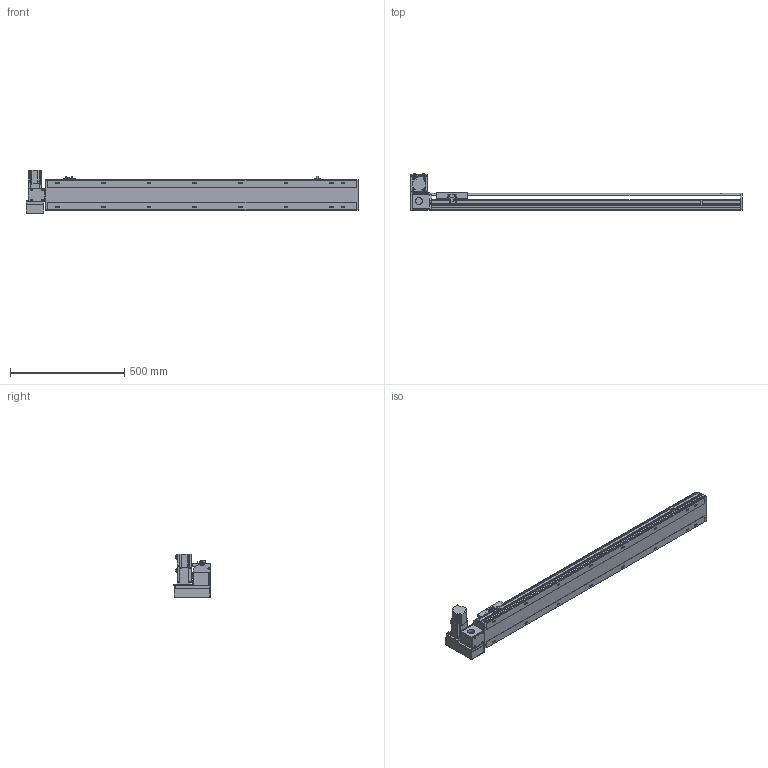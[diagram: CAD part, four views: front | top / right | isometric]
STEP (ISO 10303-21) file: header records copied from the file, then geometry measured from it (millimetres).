
FILE_DESCRIPTION( ( 'STEP AP214' ), '1' );
FILE_NAME( 'x:/temp/worker_2/temp/exporttempdir_6476_474_uyLlD/format_0/PBS140-P40-S1100-LU-T40-C1-N(0).stp', '2022-06-07T05:17:00', ( 'License CC BY-ND 4.0' ), ( 'CADENAS' ), ' ', 'PARTsolutions', ' ' );
FILE_SCHEMA( ( 'AUTOMOTIVE_DESIGN { 1 0 10303 214 1 1 1 1 }' ) );
Length unit declared in the file: millimetre
Products named in the file (7): PBS140-P40-S1100-LU-T40-C1-N(0); _PBS140-S1100()_body; _PBS140T-LU_motors; _T40-p1; _PBS140_sliser; _PBS140_plant; _PBS140_sensor
Assembly tree (8 placements, depth 2):
  PBS140-P40-S1100-LU-T40-C1-N(0)
    _PBS140-S1100()_body
    _PBS140T-LU_motors
    _T40-p1
    _PBS140_sliser
    _PBS140_plant
    _PBS140_sensor  x3
Bounding box: 1454 x 162.5 x 189.7 mm (x, y, z)
Volume: 6930518.5 mm3; surface area: 1209695 mm2
Topology: 8 solids, 8 shells, 1075 faces, 2836 edges, 1853 vertices
Faces by surface type: plane 692, cylinder 331, cone 42, sphere 8, torus 2
Full cylindrical faces by diameter (mm): 3.242 x4, 4 x2, 4.134 x4, 4.4 x8, 4.5 x2, 4.8 x4, 4.917 x24, 5.5 x7, 6 x2, 7 x18, 7.5 x8, 8 x12, 8.5 x4, 10.5 x16, 14 x1, 30 x2, 50 x2
Entity records: 39289 total; most frequent: CARTESIAN_POINT 6251, DIRECTION 5197, ORIENTED_EDGE 4912, EDGE_CURVE 2456, AXIS2_PLACEMENT_3D 1807, VERTEX_POINT 1701, LINE 1583, VECTOR 1583
